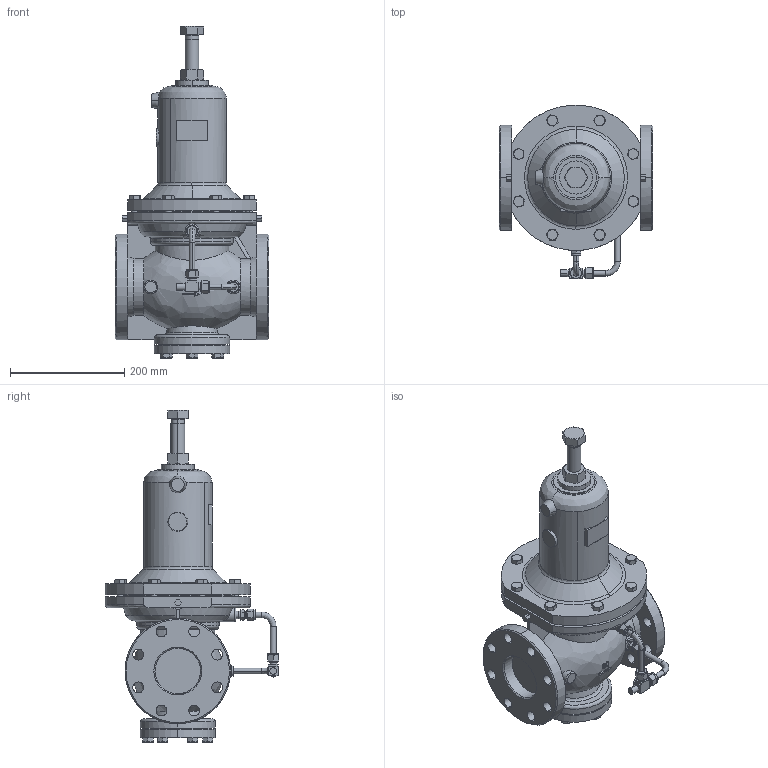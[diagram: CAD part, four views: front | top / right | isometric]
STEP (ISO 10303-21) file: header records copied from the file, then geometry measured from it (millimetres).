
FILE_DESCRIPTION( (''), '2;1');
FILE_NAME ('PC1027.11244.GD-200 80A_170.stp','2025-07-25T12:31:24',(''),(''),'spGate 19.8.4 (****-****-****-****)','','');
FILE_SCHEMA (('AUTOMOTIVE_DESIGN'));
Length unit declared in the file: millimetre
Products named in the file (17): Assembly; PC1027-prt7; PC1027-prt8; PC1027-prt9; PC1027-prt10; PC1027-prt12; PC1027-prt13; 80A本体; GD200(6580)保護筒; GD-200 80A_M2; GD-200 80A_M3; B-600-1-4RT; SS-10M0-3; 検出管A65_M5; 検出管B65_M5; GD-200 80A_M4; GD-200 80A_M5
Assembly tree (29 placements, depth 2):
  Assembly
    PC1027-prt7
    PC1027-prt8
    PC1027-prt9
    PC1027-prt10
    PC1027-prt12
    PC1027-prt13
    80A本体
    GD200(6580)保護筒
    GD-200 80A_M2
    GD-200 80A_M3
    B-600-1-4RT  x2
    SS-10M0-3
    検出管A65_M5
    検出管B65_M5
    GD-200 80A_M4  x6
    GD-200 80A_M5  x8
Bounding box: 270 x 303.91 x 582.3 mm (x, y, z)
Volume: 10018834.2 mm3; surface area: 680906.3 mm2
Topology: 23 solids, 23 shells, 929 faces, 2129 edges, 1323 vertices
Faces by surface type: plane 333, bspline 328, cylinder 268
Entity records: 33998 total; most frequent: CARTESIAN_POINT 9984, ORIENTED_EDGE 2782, DIRECTION 2328, COLOUR_RGB 1986, PRESENTATION_STYLE_ASSIGNMENT 1986, STYLED_ITEM 1986, DRAUGHTING_PRE_DEFINED_CURVE_FONT 1397, CURVE_STYLE 1397
